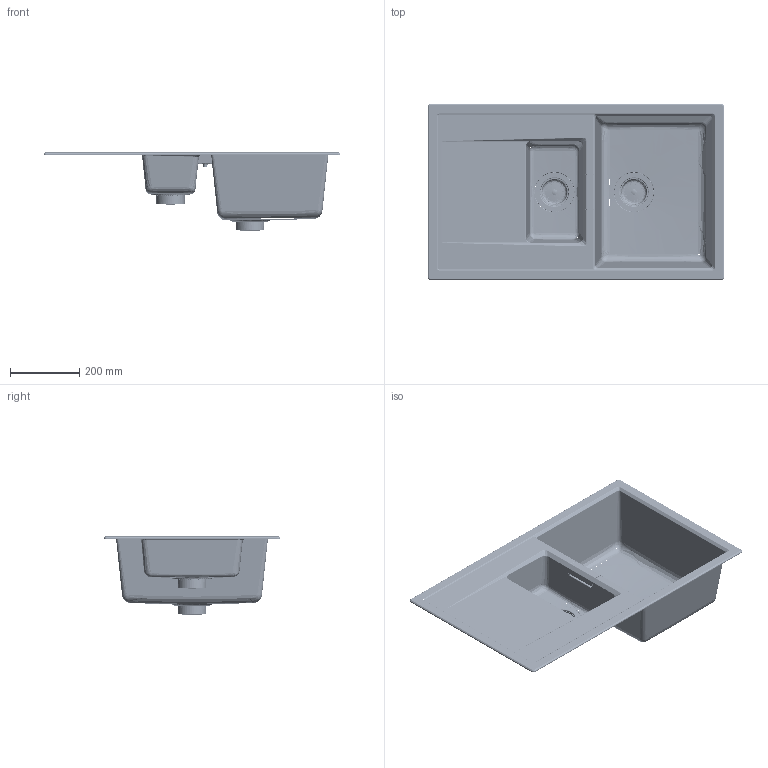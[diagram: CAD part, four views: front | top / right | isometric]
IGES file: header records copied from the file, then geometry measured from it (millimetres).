
Global section: file name: /Volumes/__KUNDEN/____01_SCHOCK/____projekte_schock/__RENDERINGS/__SPUELEN/02_3D Daten/02_PERSPEKTIVEN/Rhino/_SPU; native system: Rhinoceros ( Aug 27 2014 ); preprocessor: Trout Lake IGES 012 Aug 27 2014; date: 141104.091544; units: millimetre
Bounding box: 860 x 510 x 229.08 mm (x, y, z)
Surface area: 863703.2 mm2 (no closed solid volume)
Topology: 0 solids, 0 shells, 660 faces, 78054 edges, 78027 vertices
Faces by surface type: bspline 660
